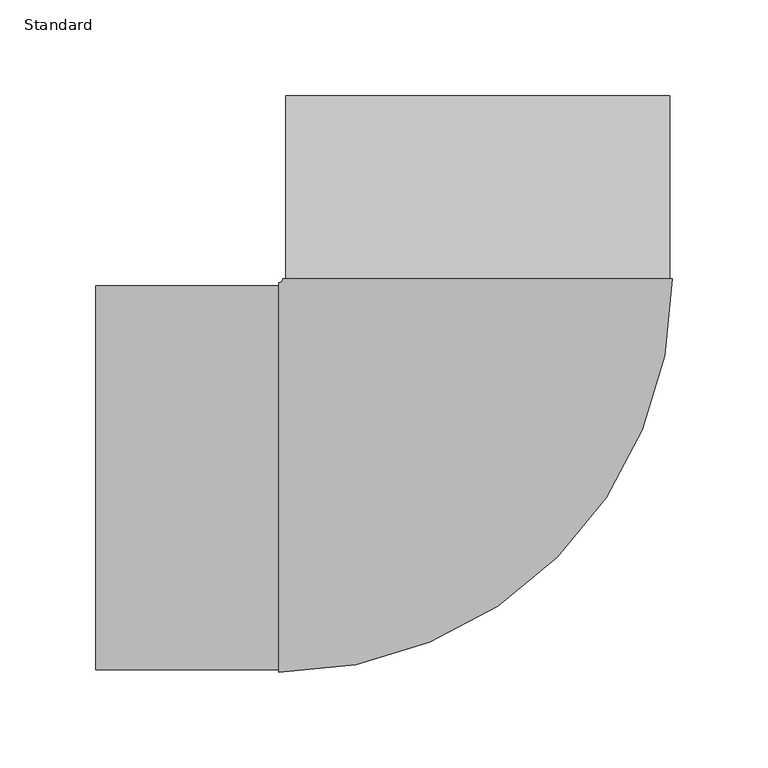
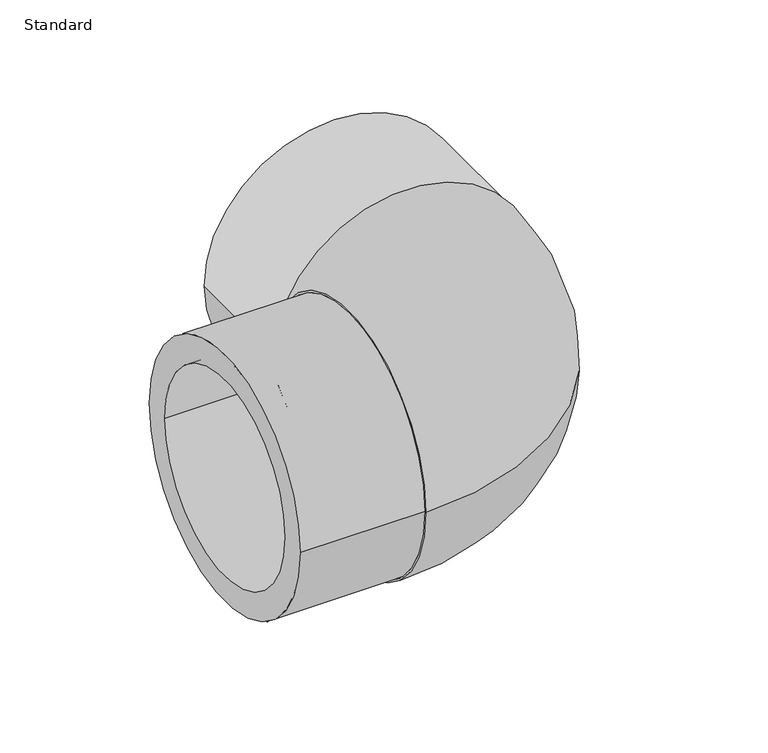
"""IFC4 building model written with IfcOpenShell, lengths in millimetres: pipe fitting geometry, EGB_VASEN_ PPR_Codo a tope 90 WXRB200_Codo a tope 45 WXRB220 : Standard."""

from ifc_helpers import new_model, si_unit, point, frame, origin, place, context, project, spatial, polyline, circle_curve, ellipse_curve, trimmed, source, transform, mapped, element, save
from ifc_brep_helpers import plane_surface, cylinder_surface, revolved_surface, advanced_brep


def standard_1a8547a4(model_context):
    return source(origin(), model_context, "Body", "AdvancedBrep", [
        advanced_brep(
        [(-200.0, -100.5, 0.0), (-200.0, 100.5, 0.0), (-200.0, -80.0, 0.0), (-200.0, 80.0, 0.0), (-104.0, -100.5, 0.0), (-104.0, 100.5, 0.0), (-104.0, -80.0, 0.0), (-104.0, 80.0, 0.0), (-104.0, -102.0, 0.0), (-104.0, 102.0, 0.0), (102.0, 104.0, 0.0), (-102.0, 104.0, 0.0), (100.5, 104.0, 0.0), (-100.5, 104.0, 0.0), (80.0, 104.0, 0.0), (-80.0, 104.0, 0.0), (100.5, 200.0, 0.0), (-100.5, 200.0, 0.0), (80.0, 200.0, 0.0), (-80.0, 200.0, 0.0)],
        [
            (0, 1, circle_curve(frame((-200.0, 0.0, 0.0), z_axis=(-1.0, 0.0, 0.0), x_axis=(0.0, 1.0, 0.0)), 100.5)),
            (1, 0, circle_curve(frame((-200.0, 0.0, 0.0), z_axis=(-1.0, 0.0, 0.0), x_axis=(0.0, 1.0, 0.0)), 100.5)),
            (2, 3, circle_curve(frame((-200.0, 0.0, 0.0), z_axis=(1.0, 0.0, 0.0), x_axis=(0.0, 1.0, 0.0)), 80.0)),
            (3, 2, circle_curve(frame((-200.0, 0.0, 0.0), z_axis=(1.0, 0.0, 0.0), x_axis=(0.0, 1.0, 0.0)), 80.0)),
            (0, 4),
            (4, 5, circle_curve(frame((-104.0, 0.0, 0.0), z_axis=(-1.0, 0.0, 0.0), x_axis=(0.0, 1.0, 0.0)), 100.5)),
            (5, 1),
            (5, 4, circle_curve(frame((-104.0, 0.0, 0.0), z_axis=(-1.0, 0.0, 0.0), x_axis=(0.0, 1.0, 0.0)), 100.5)),
            (2, 6),
            (6, 7, circle_curve(frame((-104.0, 0.0, 0.0), z_axis=(1.0, 0.0, 0.0), x_axis=(0.0, 1.0, 0.0)), 80.0)),
            (7, 3),
            (7, 6, circle_curve(frame((-104.0, 0.0, 0.0), z_axis=(1.0, 0.0, 0.0), x_axis=(0.0, 1.0, 0.0)), 80.0)),
            (8, 9, circle_curve(frame((-104.0, 0.0, 0.0), z_axis=(-1.0, 0.0, 0.0), x_axis=(0.0, 1.0, 0.0)), 102.0)),
            (9, 8, circle_curve(frame((-104.0, 0.0, 0.0), z_axis=(-1.0, 0.0, 0.0), x_axis=(0.0, 1.0, 0.0)), 102.0)),
            (10, 11, circle_curve(frame((0.0, 104.0, 0.0), z_axis=(0.0, 1.0, 0.0), x_axis=(-1.0, 0.0, 0.0)), 102.0)),
            (11, 10, circle_curve(frame((0.0, 104.0, 0.0), z_axis=(0.0, 1.0, 0.0), x_axis=(-1.0, 0.0, 0.0)), 102.0)),
            (12, 13, circle_curve(frame((0.0, 104.0, 0.0), z_axis=(0.0, -1.0, 0.0), x_axis=(-1.0, 0.0, 0.0)), 100.5)),
            (13, 12, circle_curve(frame((0.0, 104.0, 0.0), z_axis=(0.0, -1.0, 0.0), x_axis=(-1.0, 0.0, 0.0)), 100.5)),
            (14, 15, circle_curve(frame((0.0, 104.0, 0.0), z_axis=(0.0, 1.0, 0.0), x_axis=(-1.0, 0.0, 0.0)), 80.0)),
            (15, 14, circle_curve(frame((0.0, 104.0, 0.0), z_axis=(0.0, 1.0, 0.0), x_axis=(-1.0, 0.0, 0.0)), 80.0)),
            (8, 10, circle_curve(frame((-104.0, 104.0, 0.0), z_axis=(0.0, 0.0, 1.0), x_axis=(0.0, -1.0, 0.0)), 206.0)),
            (11, 9, circle_curve(frame((-104.0, 104.0, 0.0), z_axis=(0.0, 0.0, -1.0), x_axis=(0.0, -1.0, 0.0)), 2.0)),
            (16, 17, circle_curve(frame((0.0, 200.0, 0.0), z_axis=(0.0, 1.0, 0.0), x_axis=(-1.0, 0.0, 0.0)), 100.5)),
            (17, 16, circle_curve(frame((0.0, 200.0, 0.0), z_axis=(0.0, 1.0, 0.0), x_axis=(-1.0, 0.0, 0.0)), 100.5)),
            (18, 19, circle_curve(frame((0.0, 200.0, 0.0), z_axis=(0.0, -1.0, 0.0), x_axis=(-1.0, 0.0, 0.0)), 80.0)),
            (19, 18, circle_curve(frame((0.0, 200.0, 0.0), z_axis=(0.0, -1.0, 0.0), x_axis=(-1.0, 0.0, 0.0)), 80.0)),
            (17, 13),
            (12, 16),
            (19, 15),
            (14, 18),
        ],
        [
            plane_surface(frame((-200.0, 0.0, 0.0), z_axis=(-1.0, 0.0, 0.0), x_axis=(0.0, 0.0, 1.0))),
            cylinder_surface(frame((-200.0, 0.0, 0.0), z_axis=(-1.0, 0.0, 0.0), x_axis=(0.0, 1.0, 0.0)), 100.5),
            revolved_surface(polyline([(-104.0, 80.0, 0.0), (-200.0, 80.0, 0.0)]), (-200.0, 0.0, 0.0), (1.0, 0.0, 0.0)),
            plane_surface(frame((-104.0, 0.0, 0.0), z_axis=(-1.0, 0.0, 0.0), x_axis=(0.0, 0.0, 1.0))),
            plane_surface(frame((0.0, 104.0, 0.0), z_axis=(0.0, 1.0, 0.0), x_axis=(0.0, 0.0, 1.0))),
            revolved_surface(trimmed(ellipse_curve(frame((-104.0, 0.0, 0.0), z_axis=(-1.0, 0.0, 0.0), x_axis=(0.0, 1.0, 0.0)), 102.0, 102.0), [point((-104.0, -102.0, 0.0))], [point((-104.0, 102.0, 0.0))], True, "CARTESIAN"), (-104.0, 104.0, 0.0), (0.0, 0.0, 1.0)),
            revolved_surface(trimmed(ellipse_curve(frame((-104.0, 0.0, 0.0), z_axis=(-1.0, 0.0, 0.0), x_axis=(0.0, 1.0, 0.0)), 102.0, 102.0), [point((-104.0, 102.0, 0.0))], [point((-104.0, -102.0, 0.0))], True, "CARTESIAN"), (-104.0, 104.0, 0.0), (0.0, 0.0, 1.0)),
            plane_surface(frame((0.0, 200.0, 0.0), z_axis=(0.0, 1.0, 0.0), x_axis=(0.0, 0.0, 1.0))),
            cylinder_surface(frame((0.0, 104.0, 0.0), z_axis=(0.0, -1.0, 0.0), x_axis=(-1.0, 0.0, 0.0)), 100.5),
            revolved_surface(polyline([(-80.0, 200.0, 0.0), (-80.0, 104.0, 0.0)]), (0.0, 104.0, 0.0), (0.0, 1.0, 0.0)),
        ],
        [
            (0, [[1, 2], [3, 4]]),
            (1, [[-1, 5, 6, 7]]),
            (1, [[-2, -7, 8, -5]]),
            (2, [[-3, 9, 10, 11]]),
            (2, [[-4, -11, 12, -9]]),
            (3, [[-10, -12]]),
            (3, [[13, 14], [-6, -8]]),
            (4, [[15, 16], [17, 18]]),
            (4, [[19, 20]]),
            (5, [[-13, 21, -16, 22]]),
            (6, [[-14, -22, -15, -21]]),
            (7, [[23, 24], [25, 26]]),
            (8, [[-24, 27, -17, 28]]),
            (8, [[-23, -28, -18, -27]]),
            (9, [[-26, 29, -19, 30]]),
            (9, [[-25, -30, -20, -29]]),
        ],
    ),
    ])


if __name__ == "__main__":
    model = new_model("IFC4")
    model_context = context("Model", 3, world=origin())
    ifc_project = project(units=[si_unit("LENGTHUNIT", "METRE", prefix="MILLI")], contexts=[model_context])
    site = spatial("IfcSite", under=ifc_project)
    building = spatial("IfcBuilding", under=site)
    placement = place(None, origin())
    standard_shape = standard_1a8547a4(model_context)
    element("IfcPipeFitting", 1, ObjectType="EGB_VASEN_ PPR_Codo a tope 90 WXRB200_Codo a tope 45 WXRB220 : Standard", at=placement, inside=building, context=model_context, shape_type="MappedRepresentation", body=[
        mapped(standard_shape, transform((0.0, 0.0, 0.0), x_axis=(1.0, 0.0, 0.0), y_axis=(0.0, 1.0, 0.0), z_axis=(0.0, 0.0, 1.0))),
    ])
    save(model, "model.ifc")
